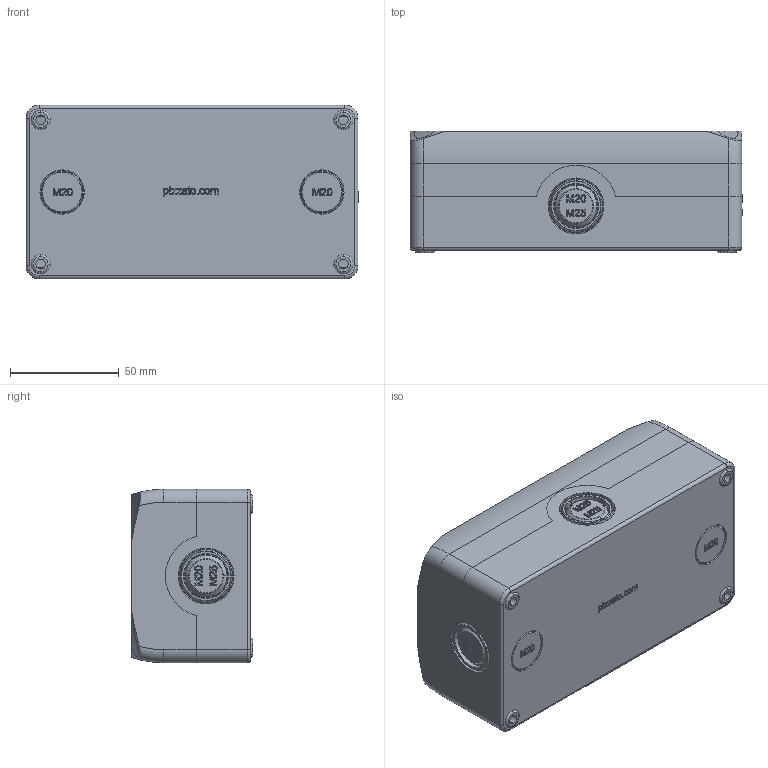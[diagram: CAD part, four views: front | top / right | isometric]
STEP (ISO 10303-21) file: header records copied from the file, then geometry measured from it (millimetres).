
FILE_DESCRIPTION (( 'STEP AP214' ), '1' );
FILE_NAME ('ZF_STEP_ES_33000.step', '2016-09-07T12:30:22', ( 'Pizzato Elettrica' ), ( '' ), 'SwSTEP 2.0', 'SolidWorks 2014', '' );
FILE_SCHEMA (( 'AUTOMOTIVE_DESIGN' ));
Length unit declared in the file: millimetre
Products named in the file (5): Tappo D_24176; Tappo C_24175; 24271_3DWeb_24251; 24270_3DWeb_24200; ZF_STEP_ES_33000
Assembly tree (6 placements, depth 2):
  ZF_STEP_ES_33000
    24270_3DWeb_24200
    24271_3DWeb_24251
    Tappo C_24175  x2
    Tappo D_24176  x2
Bounding box: 153 x 56 x 80 mm (x, y, z)
Volume: 628543.7 mm3; surface area: 93574.3 mm2
Topology: 6 solids, 6 shells, 1123 faces, 2916 edges, 1912 vertices
Faces by surface type: plane 532, bspline 283, cylinder 164, torus 76, cone 60, sphere 8
Entity records: 46462 total; most frequent: CARTESIAN_POINT 22761, ORIENTED_EDGE 5304, DIRECTION 4057, EDGE_CURVE 2652, VERTEX_POINT 1740, VECTOR 1485, LINE 1485, AXIS2_PLACEMENT_3D 1286
